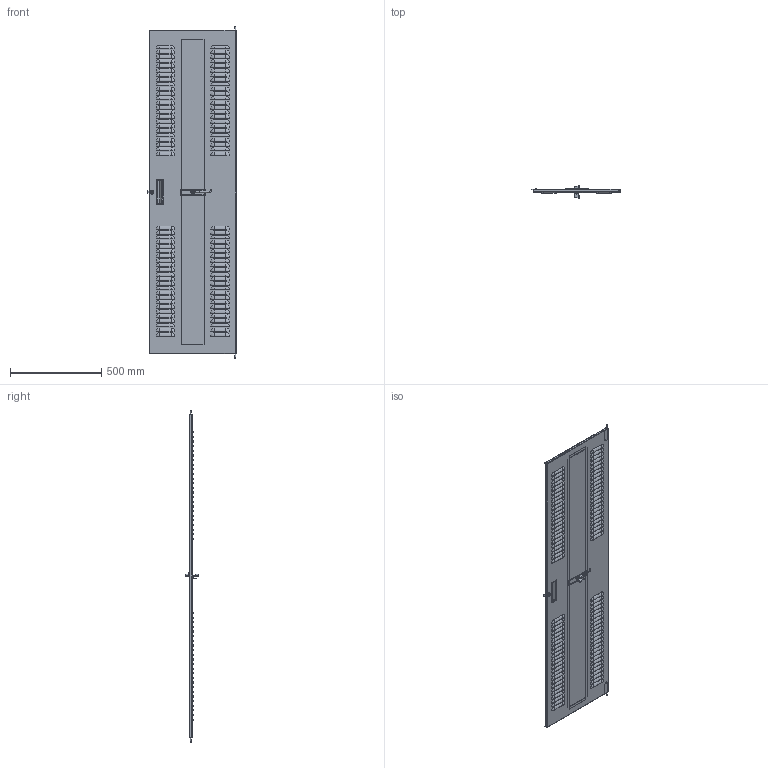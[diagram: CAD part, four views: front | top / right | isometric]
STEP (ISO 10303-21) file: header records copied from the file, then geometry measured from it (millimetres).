
FILE_DESCRIPTION( ( 'Unknown' ), '1' );
FILE_NAME( 'Q:/REFK/DOORS/LOUVERED/WEB DRAWINGS/STEP/RSDL19070.stp', 'Unknown', ( 'Unknown' ), ( 'Unknown' ), 'XStep 1.0', 'Unknown', ' ' );
FILE_SCHEMA( ( 'CONFIG_CONTROL_DESIGN' ) );
Length unit declared in the file: millimetre
Products named in the file (8): Assem1; Assem2; 1; 2; 3; 4; 5; 6
Bounding box: 486.46 x 69.85 x 1819.55 mm (x, y, z)
Volume: 5263582.3 mm3; surface area: 7613256.2 mm2
Topology: 18 solids, 18 shells, 2996 faces, 9193 edges, 5098 vertices
Faces by surface type: sphere 1152, plane 1017, cylinder 770, bspline 40, cone 11, torus 6
Full cylindrical faces by diameter (mm): 5.182 x3, 6.35 x9, 8.382 x2, 13.868 x2, 13.97 x2, 21.996 x2
Entity records: 33061 total; most frequent: DIRECTION 6121, CARTESIAN_POINT 6026, ORIENTED_EDGE 5360, EDGE_CURVE 2680, AXIS2_PLACEMENT_3D 2472, VERTEX_POINT 1705, CIRCLE 1453, EDGE_LOOP 1227
